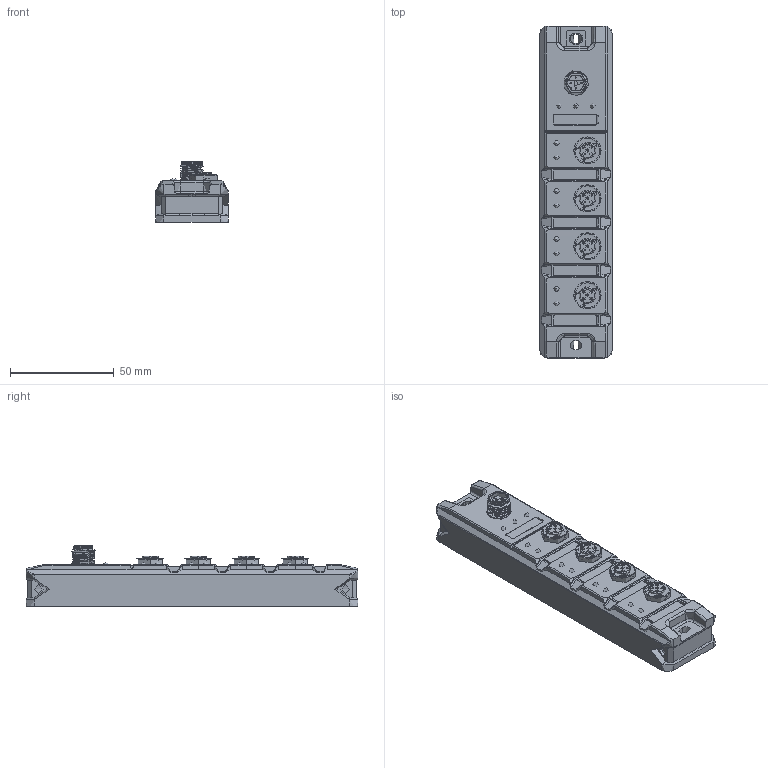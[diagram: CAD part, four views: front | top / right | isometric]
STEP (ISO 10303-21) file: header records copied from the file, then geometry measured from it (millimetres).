
FILE_DESCRIPTION(/* description */ (''),/* implementation_level */ '2;1');
FILE_NAME(/* name */ 'H.stp',/* time_stamp */ '2023-04-24T11:15:30+08:00',/* author */ (''),/* organization */ (''),/* preprocessor_version */ 'ST-DEVELOPER v16',/* originating_system */ 'SIEMENS PLM Software NX 10.0',/* authorisation */ '');
FILE_SCHEMA (('AP203_CONFIGURATION_CONTROLLED_3D_DESIGN_OF_MECHANICAL_PARTS_AND_ASSEMBLIES_MIM_LF { 1 0 10303 403 2 1 2}'));
Products named in the file (1): chao5F90CA99lhyg
Bounding box: 35 x 160 x 29.3 mm (x, y, z)
Volume: 100896 mm3; surface area: 26963.9 mm2
Topology: 8 solids, 8 shells, 1025 faces, 2679 edges, 1731 vertices
Faces by surface type: plane 397, cylinder 326, bspline 191, cone 67, torus 31, sphere 11, extrusion 2
Full cylindrical faces by diameter (mm): 4.2 x8, 8.3 x1
Entity records: 70418 total; most frequent: CARTESIAN_POINT 46940, ORIENTED_EDGE 5242, DIRECTION 4290, EDGE_CURVE 2621, VERTEX_POINT 1701, AXIS2_PLACEMENT_3D 1568, VECTOR 1154, LINE 1152
